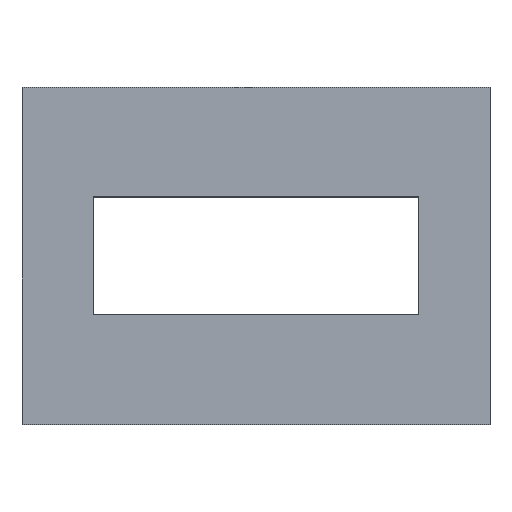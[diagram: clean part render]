
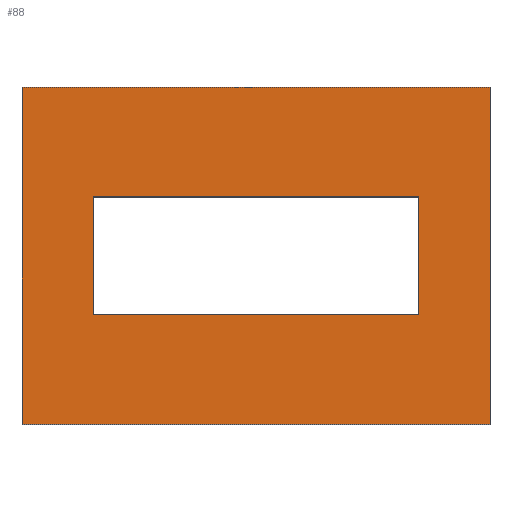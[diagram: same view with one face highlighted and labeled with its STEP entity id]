
A CAD part, top view. The second image highlights one B-rep face of the part: STEP entity #88.
In plain terms, the highlighted planar face has unit normal (0, 0, 1).
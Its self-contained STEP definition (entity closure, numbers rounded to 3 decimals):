
#24 = VERTEX_POINT('',#25);
#25 = CARTESIAN_POINT('',(-12.5,-9.,4.));
#40 = VERTEX_POINT('',#41);
#41 = CARTESIAN_POINT('',(-12.5,9.,4.));
#47 = EDGE_CURVE('',#24,#40,#48,.T.);
#48 = LINE('',#49,#50);
#49 = CARTESIAN_POINT('',(-12.5,-9.,4.));
#50 = VECTOR('',#51,1.);
#51 = DIRECTION('',(0.,1.,0.));
#70 = EDGE_CURVE('',#24,#71,#73,.T.);
#71 = VERTEX_POINT('',#72);
#72 = CARTESIAN_POINT('',(12.5,-9.,4.));
#73 = LINE('',#74,#75);
#74 = CARTESIAN_POINT('',(-12.5,-9.,4.));
#75 = VECTOR('',#76,1.);
#76 = DIRECTION('',(1.,0.,0.));
#88 = ADVANCED_FACE('',(#89,#107),#141,.T.);
#89 = FACE_BOUND('',#90,.T.);
#90 = EDGE_LOOP('',(#91,#92,#93,#101));
#91 = ORIENTED_EDGE('',*,*,#47,.F.);
#92 = ORIENTED_EDGE('',*,*,#70,.T.);
#93 = ORIENTED_EDGE('',*,*,#94,.T.);
#94 = EDGE_CURVE('',#71,#95,#97,.T.);
#95 = VERTEX_POINT('',#96);
#96 = CARTESIAN_POINT('',(12.5,9.,4.));
#97 = LINE('',#98,#99);
#98 = CARTESIAN_POINT('',(12.5,-9.,4.));
#99 = VECTOR('',#100,1.);
#100 = DIRECTION('',(0.,1.,0.));
#101 = ORIENTED_EDGE('',*,*,#102,.F.);
#102 = EDGE_CURVE('',#40,#95,#103,.T.);
#103 = LINE('',#104,#105);
#104 = CARTESIAN_POINT('',(-12.5,9.,4.));
#105 = VECTOR('',#106,1.);
#106 = DIRECTION('',(1.,0.,0.));
#107 = FACE_BOUND('',#108,.T.);
#108 = EDGE_LOOP('',(#109,#119,#127,#135));
#109 = ORIENTED_EDGE('',*,*,#110,.T.);
#110 = EDGE_CURVE('',#111,#113,#115,.T.);
#111 = VERTEX_POINT('',#112);
#112 = CARTESIAN_POINT('',(8.7,-3.15,4.));
#113 = VERTEX_POINT('',#114);
#114 = CARTESIAN_POINT('',(-8.7,-3.15,4.));
#115 = LINE('',#116,#117);
#116 = CARTESIAN_POINT('',(-10.6,-3.15,4.));
#117 = VECTOR('',#118,1.);
#118 = DIRECTION('',(-1.,0.,0.));
#119 = ORIENTED_EDGE('',*,*,#120,.T.);
#120 = EDGE_CURVE('',#113,#121,#123,.T.);
#121 = VERTEX_POINT('',#122);
#122 = CARTESIAN_POINT('',(-8.7,3.15,4.));
#123 = LINE('',#124,#125);
#124 = CARTESIAN_POINT('',(-8.7,-6.075,4.));
#125 = VECTOR('',#126,1.);
#126 = DIRECTION('',(0.,1.,0.));
#127 = ORIENTED_EDGE('',*,*,#128,.F.);
#128 = EDGE_CURVE('',#129,#121,#131,.T.);
#129 = VERTEX_POINT('',#130);
#130 = CARTESIAN_POINT('',(8.7,3.15,4.));
#131 = LINE('',#132,#133);
#132 = CARTESIAN_POINT('',(-10.6,3.15,4.));
#133 = VECTOR('',#134,1.);
#134 = DIRECTION('',(-1.,0.,0.));
#135 = ORIENTED_EDGE('',*,*,#136,.F.);
#136 = EDGE_CURVE('',#111,#129,#137,.T.);
#137 = LINE('',#138,#139);
#138 = CARTESIAN_POINT('',(8.7,-6.075,4.));
#139 = VECTOR('',#140,1.);
#140 = DIRECTION('',(0.,1.,0.));
#141 = PLANE('',#142);
#142 = AXIS2_PLACEMENT_3D('',#143,#144,#145);
#143 = CARTESIAN_POINT('',(-12.5,-9.,4.));
#144 = DIRECTION('',(0.,0.,1.));
#145 = DIRECTION('',(1.,0.,0.));
